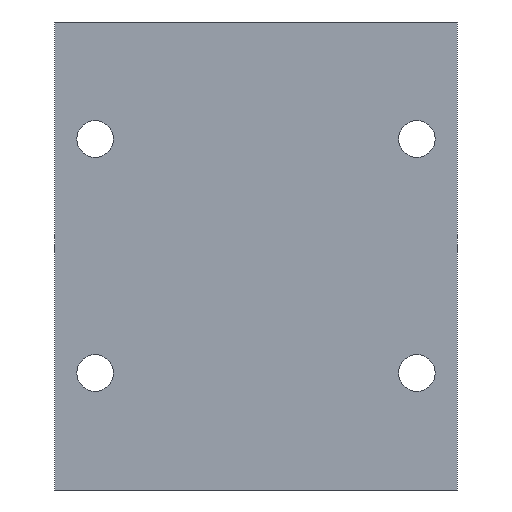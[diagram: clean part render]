
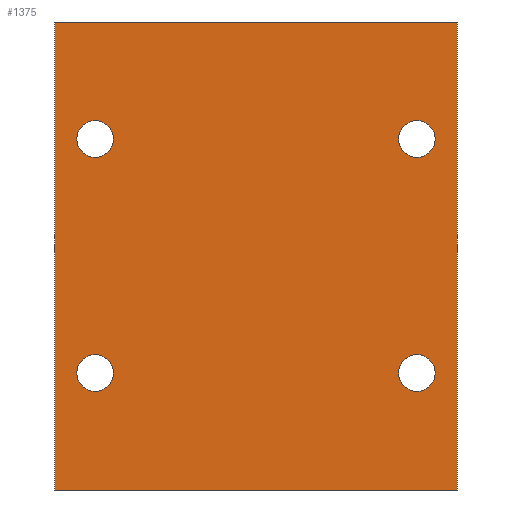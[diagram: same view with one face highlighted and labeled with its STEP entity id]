
A CAD part, left-side view. The second image highlights one B-rep face of the part: STEP entity #1375.
In plain terms, the highlighted planar face has unit normal (-1, 0, 0).
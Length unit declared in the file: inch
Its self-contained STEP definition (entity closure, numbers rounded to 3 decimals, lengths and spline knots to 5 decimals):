
#17 = CIRCLE ( 'NONE', #1906, 0.09843 ) ;
#30 = EDGE_CURVE ( 'NONE', #2363, #1259, #126, .T. ) ;
#77 = EDGE_CURVE ( 'NONE', #2647, #2988, #1937, .T. ) ;
#78 = EDGE_LOOP ( 'NONE', ( #988, #3014 ) ) ;
#106 = CARTESIAN_POINT ( 'NONE',  ( 0., 1.94882, 0.62992 ) ) ;
#125 = DIRECTION ( 'NONE',  ( 0., 0., -1. ) ) ;
#126 = LINE ( 'NONE', #3039, #2479 ) ;
#179 = CARTESIAN_POINT ( 'NONE',  ( 0., 0.21654, 0.62992 ) ) ;
#333 = DIRECTION ( 'NONE',  ( 0., 0., -1. ) ) ;
#336 = DIRECTION ( 'NONE',  ( -1., 0., 0. ) ) ;
#356 = CARTESIAN_POINT ( 'NONE',  ( 0., 0.21654, 1.88976 ) ) ;
#366 = FACE_BOUND ( 'NONE', #2951, .T. ) ;
#375 = CIRCLE ( 'NONE', #1184, 0.09843 ) ;
#422 = DIRECTION ( 'NONE',  ( 0., 0., -1. ) ) ;
#425 = EDGE_CURVE ( 'NONE', #3033, #1169, #1615, .T. ) ;
#475 = EDGE_CURVE ( 'NONE', #1467, #671, #17, .T. ) ;
#504 = CIRCLE ( 'NONE', #1279, 0.09843 ) ;
#505 = CARTESIAN_POINT ( 'NONE',  ( 0., 0.21654, 1.79134 ) ) ;
#515 = VERTEX_POINT ( 'NONE', #1359 ) ;
#539 = AXIS2_PLACEMENT_3D ( 'NONE', #106, #2497, #1075 ) ;
#546 = VECTOR ( 'NONE', #944, 39.37008 ) ;
#547 = ORIENTED_EDGE ( 'NONE', *, *, #1321, .F. ) ;
#559 = CARTESIAN_POINT ( 'NONE',  ( 0., 1.94882, 1.88976 ) ) ;
#572 = CARTESIAN_POINT ( 'NONE',  ( 0., 0., 0. ) ) ;
#584 = VECTOR ( 'NONE', #2752, 39.37008 ) ;
#671 = VERTEX_POINT ( 'NONE', #2146 ) ;
#721 = EDGE_CURVE ( 'NONE', #1169, #3033, #375, .T. ) ;
#763 = CARTESIAN_POINT ( 'NONE',  ( 0., 2.16535, 2.51969 ) ) ;
#836 = CARTESIAN_POINT ( 'NONE',  ( 0., 0.21654, 0.62992 ) ) ;
#837 = LINE ( 'NONE', #2486, #2386 ) ;
#839 = LINE ( 'NONE', #2389, #546 ) ;
#856 = VERTEX_POINT ( 'NONE', #2952 ) ;
#880 = CARTESIAN_POINT ( 'NONE',  ( 0., 0., 0. ) ) ;
#905 = EDGE_CURVE ( 'NONE', #671, #1467, #1215, .T. ) ;
#944 = DIRECTION ( 'NONE',  ( 0., 0., -1. ) ) ;
#988 = ORIENTED_EDGE ( 'NONE', *, *, #1258, .F. ) ;
#1015 = DIRECTION ( 'NONE',  ( 0., 0., 1. ) ) ;
#1055 = CIRCLE ( 'NONE', #539, 0.09843 ) ;
#1067 = DIRECTION ( 'NONE',  ( -1., 0., 0. ) ) ;
#1074 = AXIS2_PLACEMENT_3D ( 'NONE', #1546, #2506, #333 ) ;
#1075 = DIRECTION ( 'NONE',  ( 0., 0., -1. ) ) ;
#1099 = DIRECTION ( 'NONE',  ( 0., -1., 0. ) ) ;
#1169 = VERTEX_POINT ( 'NONE', #1787 ) ;
#1173 = ORIENTED_EDGE ( 'NONE', *, *, #30, .F. ) ;
#1184 = AXIS2_PLACEMENT_3D ( 'NONE', #1965, #1216, #2188 ) ;
#1215 = CIRCLE ( 'NONE', #1074, 0.09843 ) ;
#1216 = DIRECTION ( 'NONE',  ( -1., 0., 0. ) ) ;
#1258 = EDGE_CURVE ( 'NONE', #1650, #856, #2123, .T. ) ;
#1259 = VERTEX_POINT ( 'NONE', #2290 ) ;
#1274 = FACE_BOUND ( 'NONE', #78, .T. ) ;
#1279 = AXIS2_PLACEMENT_3D ( 'NONE', #179, #2802, #422 ) ;
#1285 = EDGE_LOOP ( 'NONE', ( #2748, #1173, #2947, #547 ) ) ;
#1321 = EDGE_CURVE ( 'NONE', #2712, #515, #2352, .T. ) ;
#1338 = DIRECTION ( 'NONE',  ( 1., 0., 0. ) ) ;
#1347 = DIRECTION ( 'NONE',  ( 0., 0., -1. ) ) ;
#1359 = CARTESIAN_POINT ( 'NONE',  ( 0., 2.16535, 0. ) ) ;
#1368 = ORIENTED_EDGE ( 'NONE', *, *, #77, .F. ) ;
#1375 = ADVANCED_FACE ( 'NONE', ( #2899, #1274, #2193, #1468, #366 ), #2338, .F. ) ;
#1380 = AXIS2_PLACEMENT_3D ( 'NONE', #559, #336, #2710 ) ;
#1384 = AXIS2_PLACEMENT_3D ( 'NONE', #2327, #1338, #2562 ) ;
#1467 = VERTEX_POINT ( 'NONE', #505 ) ;
#1468 = FACE_BOUND ( 'NONE', #1523, .T. ) ;
#1523 = EDGE_LOOP ( 'NONE', ( #2114, #2932 ) ) ;
#1546 = CARTESIAN_POINT ( 'NONE',  ( 0., 0.21654, 1.88976 ) ) ;
#1615 = CIRCLE ( 'NONE', #1380, 0.09843 ) ;
#1650 = VERTEX_POINT ( 'NONE', #2733 ) ;
#1781 = CARTESIAN_POINT ( 'NONE',  ( 0., 1.94882, 0.62992 ) ) ;
#1784 = DIRECTION ( 'NONE',  ( -1., 0., 0. ) ) ;
#1787 = CARTESIAN_POINT ( 'NONE',  ( 0., 1.94882, 1.79134 ) ) ;
#1832 = EDGE_CURVE ( 'NONE', #2988, #2647, #1055, .T. ) ;
#1906 = AXIS2_PLACEMENT_3D ( 'NONE', #356, #1784, #1347 ) ;
#1937 = CIRCLE ( 'NONE', #2100, 0.09843 ) ;
#1965 = CARTESIAN_POINT ( 'NONE',  ( 0., 1.94882, 1.88976 ) ) ;
#1970 = EDGE_LOOP ( 'NONE', ( #1368, #2463 ) ) ;
#1973 = CARTESIAN_POINT ( 'NONE',  ( 0., 1.94882, 0.5315 ) ) ;
#1991 = CARTESIAN_POINT ( 'NONE',  ( 0., 1.94882, 0.72835 ) ) ;
#2100 = AXIS2_PLACEMENT_3D ( 'NONE', #1781, #3015, #125 ) ;
#2114 = ORIENTED_EDGE ( 'NONE', *, *, #721, .F. ) ;
#2123 = CIRCLE ( 'NONE', #2534, 0.09843 ) ;
#2146 = CARTESIAN_POINT ( 'NONE',  ( 0., 0.21654, 1.98819 ) ) ;
#2188 = DIRECTION ( 'NONE',  ( 0., 0., -1. ) ) ;
#2193 = FACE_BOUND ( 'NONE', #1970, .T. ) ;
#2194 = ORIENTED_EDGE ( 'NONE', *, *, #475, .F. ) ;
#2290 = CARTESIAN_POINT ( 'NONE',  ( 0., 0., 2.51969 ) ) ;
#2327 = CARTESIAN_POINT ( 'NONE',  ( 0., 0., 2.51969 ) ) ;
#2338 = PLANE ( 'NONE',  #1384 ) ;
#2352 = LINE ( 'NONE', #572, #584 ) ;
#2363 = VERTEX_POINT ( 'NONE', #763 ) ;
#2386 = VECTOR ( 'NONE', #1015, 39.37008 ) ;
#2389 = CARTESIAN_POINT ( 'NONE',  ( 0., 0., 2.51969 ) ) ;
#2463 = ORIENTED_EDGE ( 'NONE', *, *, #1832, .F. ) ;
#2479 = VECTOR ( 'NONE', #1099, 39.37008 ) ;
#2486 = CARTESIAN_POINT ( 'NONE',  ( 0., 2.16535, 2.51969 ) ) ;
#2497 = DIRECTION ( 'NONE',  ( -1., 0., 0. ) ) ;
#2506 = DIRECTION ( 'NONE',  ( -1., 0., 0. ) ) ;
#2534 = AXIS2_PLACEMENT_3D ( 'NONE', #836, #1067, #2987 ) ;
#2562 = DIRECTION ( 'NONE',  ( 0., 0., -1. ) ) ;
#2647 = VERTEX_POINT ( 'NONE', #1973 ) ;
#2698 = ORIENTED_EDGE ( 'NONE', *, *, #905, .F. ) ;
#2710 = DIRECTION ( 'NONE',  ( 0., 0., -1. ) ) ;
#2712 = VERTEX_POINT ( 'NONE', #880 ) ;
#2733 = CARTESIAN_POINT ( 'NONE',  ( 0., 0.21654, 0.5315 ) ) ;
#2748 = ORIENTED_EDGE ( 'NONE', *, *, #2871, .F. ) ;
#2752 = DIRECTION ( 'NONE',  ( 0., 1., 0. ) ) ;
#2802 = DIRECTION ( 'NONE',  ( -1., 0., 0. ) ) ;
#2871 = EDGE_CURVE ( 'NONE', #1259, #2712, #839, .T. ) ;
#2899 = FACE_OUTER_BOUND ( 'NONE', #1285, .T. ) ;
#2932 = ORIENTED_EDGE ( 'NONE', *, *, #425, .F. ) ;
#2947 = ORIENTED_EDGE ( 'NONE', *, *, #3054, .F. ) ;
#2951 = EDGE_LOOP ( 'NONE', ( #2194, #2698 ) ) ;
#2952 = CARTESIAN_POINT ( 'NONE',  ( 0., 0.21654, 0.72835 ) ) ;
#2987 = DIRECTION ( 'NONE',  ( 0., 0., -1. ) ) ;
#2988 = VERTEX_POINT ( 'NONE', #1991 ) ;
#3014 = ORIENTED_EDGE ( 'NONE', *, *, #3075, .F. ) ;
#3015 = DIRECTION ( 'NONE',  ( -1., 0., 0. ) ) ;
#3019 = CARTESIAN_POINT ( 'NONE',  ( 0., 1.94882, 1.98819 ) ) ;
#3033 = VERTEX_POINT ( 'NONE', #3019 ) ;
#3039 = CARTESIAN_POINT ( 'NONE',  ( 0., 0., 2.51969 ) ) ;
#3054 = EDGE_CURVE ( 'NONE', #515, #2363, #837, .T. ) ;
#3075 = EDGE_CURVE ( 'NONE', #856, #1650, #504, .T. ) ;
